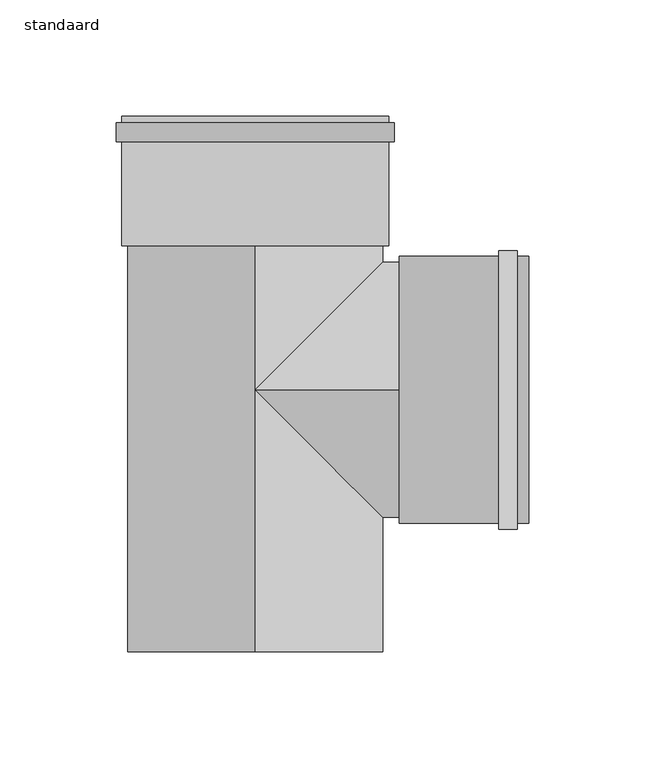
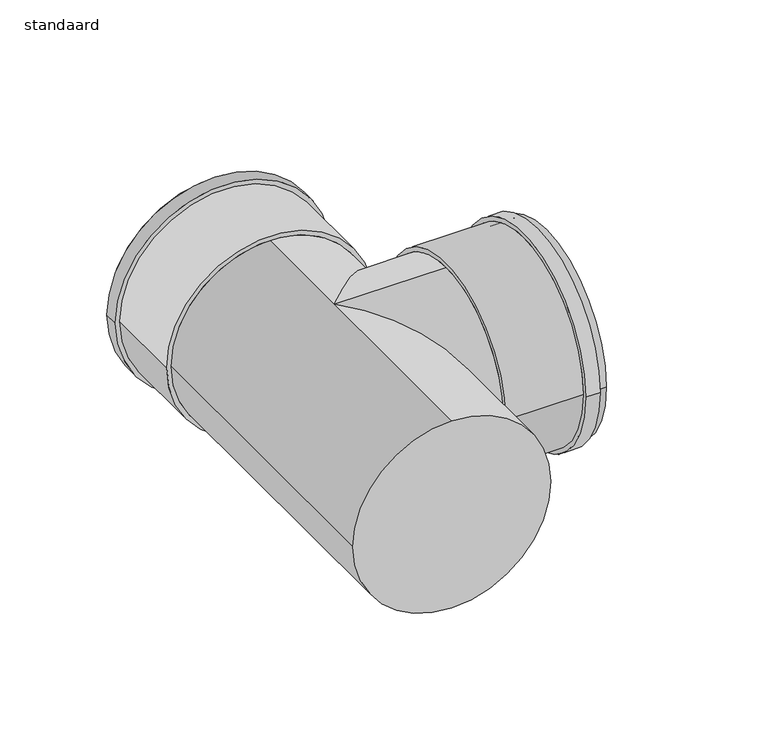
"""IFC4 building model written with IfcOpenShell, lengths in millimetres: pipe fitting geometry, 400_52_Dyka_PP_DykaStil_T-stuk_MMS : standaard."""

from ifc_helpers import new_model, si_unit, point, frame, origin, origin_2d, place, context, project, spatial, polyline, circle_curve, ellipse_curve, trimmed, segment, composite_curve, outline, extrude, source, transform, mapped, element, save
from ifc_brep_helpers import plane_surface, cylinder_surface, revolved_surface, advanced_brep


def standaard_8498dc57(model_context):
    return source(origin(), model_context, "Body", "SolidModel", [
        advanced_brep(
        [(-60.0, 115.0, 0.0), (60.0, 115.0, 0.0), (57.5, 115.0, 0.0), (-57.5, 115.0, 0.0), (-60.0, 107.0, 0.0), (60.0, 107.0, 0.0), (-57.5, 107.0, 0.0), (57.5, 107.0, 0.0), (57.5, 62.0, 0.0), (-57.5, 62.0, 0.0), (55.0, 62.0, 0.0), (-55.0, 62.0, 0.0), (57.5, 118.0, 0.0), (-57.5, 118.0, 0.0), (55.0, 118.0, 0.0), (-55.0, 118.0, 0.0)],
        [
            (0, 1, circle_curve(frame((0.0, 115.0, 0.0), z_axis=(0.0, 1.0, 0.0), x_axis=(1.0, 0.0, 0.0)), 60.0)),
            (1, 0, circle_curve(frame((0.0, 115.0, 0.0), z_axis=(0.0, 1.0, 0.0), x_axis=(1.0, 0.0, 0.0)), 60.0)),
            (2, 3, circle_curve(frame((0.0, 115.0, 0.0), z_axis=(0.0, -1.0, 0.0), x_axis=(-1.0, 0.0, 0.0)), 57.5)),
            (3, 2, circle_curve(frame((0.0, 115.0, 0.0), z_axis=(0.0, -1.0, 0.0), x_axis=(-1.0, 0.0, 0.0)), 57.5)),
            (4, 5, circle_curve(frame((0.0, 107.0, 0.0), z_axis=(0.0, -1.0, 0.0), x_axis=(1.0, 0.0, 0.0)), 60.0)),
            (5, 4, circle_curve(frame((0.0, 107.0, 0.0), z_axis=(0.0, -1.0, 0.0), x_axis=(1.0, 0.0, 0.0)), 60.0)),
            (6, 7, circle_curve(frame((0.0, 107.0, 0.0), z_axis=(0.0, 1.0, 0.0), x_axis=(-1.0, 0.0, 0.0)), 57.5)),
            (7, 6, circle_curve(frame((0.0, 107.0, 0.0), z_axis=(0.0, 1.0, 0.0), x_axis=(-1.0, 0.0, 0.0)), 57.5)),
            (0, 4),
            (5, 1),
            (8, 9, circle_curve(frame((0.0, 62.0, 0.0), z_axis=(0.0, -1.0, 0.0), x_axis=(-1.0, 0.0, 0.0)), 57.5)),
            (9, 8, circle_curve(frame((0.0, 62.0, 0.0), z_axis=(0.0, -1.0, 0.0), x_axis=(-1.0, 0.0, 0.0)), 57.5)),
            (10, 11, circle_curve(frame((0.0, 62.0, 0.0), z_axis=(0.0, 1.0, 0.0), x_axis=(-1.0, 0.0, 0.0)), 55.0)),
            (11, 10, circle_curve(frame((0.0, 62.0, 0.0), z_axis=(0.0, 1.0, 0.0), x_axis=(-1.0, 0.0, 0.0)), 55.0)),
            (12, 13, circle_curve(frame((0.0, 118.0, 0.0), z_axis=(0.0, 1.0, 0.0), x_axis=(-1.0, 0.0, 0.0)), 57.5)),
            (13, 12, circle_curve(frame((0.0, 118.0, 0.0), z_axis=(0.0, 1.0, 0.0), x_axis=(-1.0, 0.0, 0.0)), 57.5)),
            (14, 15, circle_curve(frame((0.0, 118.0, 0.0), z_axis=(0.0, -1.0, 0.0), x_axis=(-1.0, 0.0, 0.0)), 55.0)),
            (15, 14, circle_curve(frame((0.0, 118.0, 0.0), z_axis=(0.0, -1.0, 0.0), x_axis=(-1.0, 0.0, 0.0)), 55.0)),
            (8, 7),
            (6, 9),
            (13, 3),
            (2, 12),
            (10, 14),
            (15, 11),
        ],
        [
            plane_surface(frame((0.0, 115.0, 0.0), z_axis=(0.0, 1.0, 0.0), x_axis=(0.0, 0.0, 1.0))),
            plane_surface(frame((0.0, 107.0, 0.0), z_axis=(0.0, -1.0, 0.0), x_axis=(0.0, 0.0, 1.0))),
            cylinder_surface(frame((0.0, 115.0, 0.0), z_axis=(0.0, 1.0, 0.0), x_axis=(1.0, 0.0, 0.0)), 60.0),
            plane_surface(frame((0.0, 62.0, 0.0), z_axis=(0.0, -1.0, 0.0), x_axis=(0.0, 0.0, 1.0))),
            plane_surface(frame((0.0, 118.0, 0.0), z_axis=(0.0, 1.0, 0.0), x_axis=(0.0, 0.0, 1.0))),
            cylinder_surface(frame((0.0, 62.0, 0.0), z_axis=(0.0, -1.0, 0.0), x_axis=(-1.0, 0.0, 0.0)), 57.5),
            revolved_surface(polyline([(-55.0, 118.0, 0.0), (-55.0, 62.0, 0.0)]), (0.0, 62.0, 0.0), (0.0, 1.0, 0.0)),
        ],
        [
            (0, [[1, 2], [3, 4]]),
            (1, [[5, 6], [7, 8]]),
            (2, [[-1, 9, -6, 10]]),
            (2, [[-2, -10, -5, -9]]),
            (3, [[11, 12], [13, 14]]),
            (4, [[15, 16], [17, 18]]),
            (5, [[-11, 19, -7, 20]]),
            (5, [[-16, 21, -3, 22]]),
            (5, [[-12, -20, -8, -19]]),
            (5, [[-15, -22, -4, -21]]),
            (6, [[-13, 23, -18, 24]]),
            (6, [[-14, -24, -17, -23]]),
        ],
    ),
        advanced_brep(
        [(113.0, 60.0, 0.0), (113.0, -60.0, 0.0), (113.0, -57.5, 0.0), (113.0, 57.5, 0.0), (105.0165855, 60.0, 0.0), (105.0165855, -60.0, 0.0), (105.0165855, 57.5, 0.0), (105.0165855, -57.5, 0.0), (62.0, -57.5, 0.0), (62.0, 57.5, 0.0), (62.0, -55.0, 0.0), (62.0, 55.0, 0.0), (118.0, -57.5, 0.0), (118.0, 57.5, 0.0), (118.0, -55.0, 0.0), (118.0, 55.0, 0.0)],
        [
            (0, 1, circle_curve(frame((113.0, 0.0, 0.0), z_axis=(1.0, 0.0, 0.0), x_axis=(0.0, -1.0, 0.0)), 60.0)),
            (1, 0, circle_curve(frame((113.0, 0.0, 0.0), z_axis=(1.0, 0.0, 0.0), x_axis=(0.0, -1.0, 0.0)), 60.0)),
            (2, 3, circle_curve(frame((113.0, 0.0, 0.0), z_axis=(-1.0, 0.0, 0.0), x_axis=(0.0, 1.0, 0.0)), 57.5)),
            (3, 2, circle_curve(frame((113.0, 0.0, 0.0), z_axis=(-1.0, 0.0, 0.0), x_axis=(0.0, 1.0, 0.0)), 57.5)),
            (4, 5, circle_curve(frame((105.0165855, 0.0, 0.0), z_axis=(-1.0, 0.0, 0.0), x_axis=(0.0, -1.0, 0.0)), 60.0)),
            (5, 4, circle_curve(frame((105.0165855, 0.0, 0.0), z_axis=(-1.0, 0.0, 0.0), x_axis=(0.0, -1.0, 0.0)), 60.0)),
            (6, 7, circle_curve(frame((105.0165855, 0.0, 0.0), z_axis=(1.0, 0.0, 0.0), x_axis=(0.0, 1.0, 0.0)), 57.5)),
            (7, 6, circle_curve(frame((105.0165855, 0.0, 0.0), z_axis=(1.0, 0.0, 0.0), x_axis=(0.0, 1.0, 0.0)), 57.5)),
            (0, 4),
            (5, 1),
            (8, 9, circle_curve(frame((62.0, 0.0, 0.0), z_axis=(-1.0, 0.0, 0.0), x_axis=(0.0, 1.0, 0.0)), 57.5)),
            (9, 8, circle_curve(frame((62.0, 0.0, 0.0), z_axis=(-1.0, 0.0, 0.0), x_axis=(0.0, 1.0, 0.0)), 57.5)),
            (10, 11, circle_curve(frame((62.0, 0.0, 0.0), z_axis=(1.0, 0.0, 0.0), x_axis=(0.0, 1.0, 0.0)), 55.0)),
            (11, 10, circle_curve(frame((62.0, 0.0, 0.0), z_axis=(1.0, 0.0, 0.0), x_axis=(0.0, 1.0, 0.0)), 55.0)),
            (12, 13, circle_curve(frame((118.0, 0.0, 0.0), z_axis=(1.0, 0.0, 0.0), x_axis=(0.0, 1.0, 0.0)), 57.5)),
            (13, 12, circle_curve(frame((118.0, 0.0, 0.0), z_axis=(1.0, 0.0, 0.0), x_axis=(0.0, 1.0, 0.0)), 57.5)),
            (14, 15, circle_curve(frame((118.0, 0.0, 0.0), z_axis=(-1.0, 0.0, 0.0), x_axis=(0.0, 1.0, 0.0)), 55.0)),
            (15, 14, circle_curve(frame((118.0, 0.0, 0.0), z_axis=(-1.0, 0.0, 0.0), x_axis=(0.0, 1.0, 0.0)), 55.0)),
            (10, 14),
            (15, 11),
            (8, 7),
            (6, 9),
            (13, 3),
            (2, 12),
        ],
        [
            plane_surface(frame((113.0, 0.0, 0.0), z_axis=(1.0, 0.0, 0.0), x_axis=(0.0, 0.0, 1.0))),
            plane_surface(frame((105.0165855, 0.0, 0.0), z_axis=(-1.0, 0.0, 0.0), x_axis=(0.0, 0.0, 1.0))),
            cylinder_surface(frame((113.0, 0.0, 0.0), z_axis=(1.0, 0.0, 0.0), x_axis=(0.0, -1.0, 0.0)), 60.0),
            plane_surface(frame((62.0, 0.0, 0.0), z_axis=(-1.0, 0.0, 0.0), x_axis=(0.0, 0.0, 1.0))),
            plane_surface(frame((118.0, 0.0, 0.0), z_axis=(1.0, 0.0, 0.0), x_axis=(0.0, 0.0, 1.0))),
            revolved_surface(polyline([(118.0, 55.0, 0.0), (62.0, 55.0, 0.0)]), (62.0, 0.0, 0.0), (1.0, 0.0, 0.0)),
            cylinder_surface(frame((62.0, 0.0, 0.0), z_axis=(-1.0, 0.0, 0.0), x_axis=(0.0, 1.0, 0.0)), 57.5),
        ],
        [
            (0, [[1, 2], [3, 4]]),
            (1, [[5, 6], [7, 8]]),
            (2, [[-1, 9, -6, 10]]),
            (2, [[-2, -10, -5, -9]]),
            (3, [[11, 12], [13, 14]]),
            (4, [[15, 16], [17, 18]]),
            (5, [[-13, 19, -18, 20]]),
            (5, [[-14, -20, -17, -19]]),
            (6, [[-11, 21, -7, 22]]),
            (6, [[-16, 23, -3, 24]]),
            (6, [[-12, -22, -8, -21]]),
            (6, [[-15, -24, -4, -23]]),
        ],
    ),
        advanced_brep(
        [(55.0, 55.0, 0.0), (55.0, -55.0, 0.0), (0.0, 0.0, 55.0), (0.0, 0.0, -55.0), (62.0, 0.0, 55.0), (62.0, -55.0, 0.0), (62.0, 0.0, -55.0), (62.0, 55.0, 0.0)],
        [
            (0, 1),
            (1, 2, ellipse_curve(frame((0.0, 0.0, 0.0), z_axis=(-0.707106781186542, -0.707106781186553, 0.0), x_axis=(-0.707106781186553, 0.707106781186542, 0.0)), 77.7817459, 55.0)),
            (2, 0, ellipse_curve(frame((0.0, 0.0, 0.0), z_axis=(-0.707106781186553, 0.707106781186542, 0.0), x_axis=(0.707106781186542, 0.707106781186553, 0.0)), 77.7817459, 55.0)),
            (0, 3, ellipse_curve(frame((0.0, 0.0, 0.0), z_axis=(-0.707106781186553, 0.707106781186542, 0.0), x_axis=(0.707106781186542, 0.707106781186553, 0.0)), 77.7817459, 55.0)),
            (3, 1, ellipse_curve(frame((0.0, 0.0, 0.0), z_axis=(-0.707106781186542, -0.707106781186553, 0.0), x_axis=(-0.707106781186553, 0.707106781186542, 0.0)), 77.7817459, 55.0)),
            (4, 5, circle_curve(frame((62.0, 0.0, 0.0), z_axis=(1.0, 0.0, 0.0), x_axis=(0.0, 1.0, 0.0)), 55.0)),
            (5, 6, circle_curve(frame((62.0, 0.0, 0.0), z_axis=(1.0, 0.0, 0.0), x_axis=(0.0, 1.0, 0.0)), 55.0)),
            (6, 7, circle_curve(frame((62.0, 0.0, 0.0), z_axis=(1.0, 0.0, 0.0), x_axis=(0.0, 1.0, 0.0)), 55.0)),
            (7, 4, circle_curve(frame((62.0, 0.0, 0.0), z_axis=(1.0, 0.0, 0.0), x_axis=(0.0, 1.0, 0.0)), 55.0)),
            (7, 0),
            (2, 4),
            (6, 3),
            (5, 1),
        ],
        [
            revolved_surface(polyline([(55.0, 55.0, 0.0), (55.0, -55.0, 0.0)]), (0.0, 118.0, 0.0), (0.0, 1.0, 0.0)),
            plane_surface(frame((62.0, 0.0, 0.0), z_axis=(1.0, 0.0, 0.0), x_axis=(0.0, 0.0, 1.0))),
            cylinder_surface(frame((0.0, 0.0, 0.0), z_axis=(-1.0, 0.0, 0.0), x_axis=(0.0, 1.0, 0.0)), 55.0),
        ],
        [
            (0, [[1, 2, 3]]),
            (0, [[-1, 4, 5]]),
            (1, [[6, 7, 8, 9]]),
            (2, [[-9, 10, -3, 11]]),
            (2, [[-8, 12, -4, -10]]),
            (2, [[-7, 13, -5, -12]]),
            (2, [[-6, -11, -2, -13]]),
        ],
    ),
        extrude(outline(composite_curve([segment(trimmed(circle_curve(origin_2d(), 55.0), [point((55.0, 0.0))], [point((0.0, -55.0))], False, "CARTESIAN"), True, "CONTINUOUS"), segment(trimmed(circle_curve(origin_2d(), 55.0), [point((0.0, -55.0))], [point((-55.0, 0.0))], False, "CARTESIAN"), True, "CONTINUOUS"), segment(trimmed(circle_curve(origin_2d(), 55.0), [point((-55.0, 0.0))], [point((0.0, 55.0))], False, "CARTESIAN"), True, "CONTINUOUS"), segment(trimmed(circle_curve(origin_2d(), 55.0), [point((0.0, 55.0))], [point((55.0, 0.0))], False, "CARTESIAN"), True, "CONTINUOUS")], self_intersect=False)), frame((0.0, -113.0, 0.0), z_axis=(0.0, 1.0, 0.0), x_axis=(0.0, 0.0, 1.0)), (0.0, 0.0, 1.0), 175.0),
    ])


if __name__ == "__main__":
    model = new_model("IFC4")
    model_context = context("Model", 3, world=origin())
    ifc_project = project(units=[si_unit("LENGTHUNIT", "METRE", prefix="MILLI")], contexts=[model_context])
    site = spatial("IfcSite", under=ifc_project)
    building = spatial("IfcBuilding", under=site)
    placement = place(None, origin())
    standaard_shape = standaard_8498dc57(model_context)
    element("IfcPipeFitting", 1, ObjectType="400_52_Dyka_PP_DykaStil_T-stuk_MMS : standaard", at=placement, inside=building, context=model_context, shape_type="MappedRepresentation", body=[
        mapped(standaard_shape, transform((0.0, 0.0, 0.0), x_axis=(1.0, 0.0, 0.0), y_axis=(0.0, 1.0, 0.0), z_axis=(0.0, 0.0, 1.0))),
    ])
    save(model, "model.ifc")
